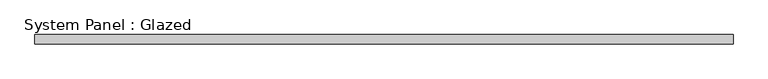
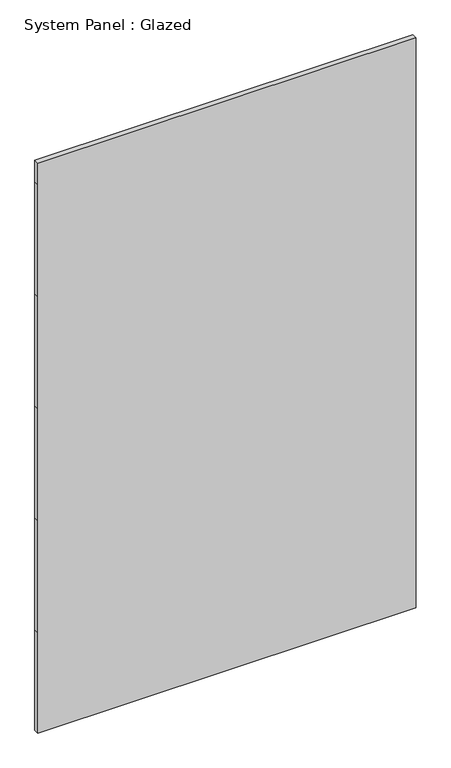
"""IFC4 building model written with IfcOpenShell, lengths in millimetres: plate geometry, System Panel : Glazed."""

from ifc_helpers import new_model, si_unit, frame, origin, place, context, project, spatial, polyline, outline, extrude, source, transform, mapped, element, save


def system_panel_glazed_1f20e292(model_context):
    return source(origin(), model_context, "Body", "SweptSolid", [
        extrude(outline(polyline([(0.0, -974.1121469), (0.0, 974.1121469), (546.1, 974.1121469), (1155.7, 974.1121469), (1765.3, 974.1121469), (2374.9, 974.1121469), (2984.5, 974.1121469), (3101.9419949, 974.1121469), (3101.9419949, -974.1121469), (2984.5, -974.1121469), (2374.9, -974.1121469), (1765.3, -974.1121469), (1155.7, -974.1121469), (546.1, -974.1121469), (0.0, -974.1121469)])), frame((0.0, 19.05, 0.0), z_axis=(0.0, 1.0, 0.0), x_axis=(0.0, 0.0, 1.0)), (0.0, 0.0, 1.0), 25.4),
    ])


if __name__ == "__main__":
    model = new_model("IFC4")
    model_context = context("Model", 3, world=origin())
    ifc_project = project(units=[si_unit("LENGTHUNIT", "METRE", prefix="MILLI")], contexts=[model_context])
    site = spatial("IfcSite", under=ifc_project)
    building = spatial("IfcBuilding", under=site)
    placement = place(None, origin())
    system_panel_glazed_shape = system_panel_glazed_1f20e292(model_context)
    element("IfcPlate", 1, ObjectType="System Panel : Glazed", at=placement, inside=building, context=model_context, shape_type="MappedRepresentation", body=[
        mapped(system_panel_glazed_shape, transform((0.0, 0.0, 0.0), x_axis=(1.0, 0.0, 0.0), y_axis=(0.0, 1.0, 0.0), z_axis=(0.0, 0.0, 1.0))),
    ])
    save(model, "model.ifc")
